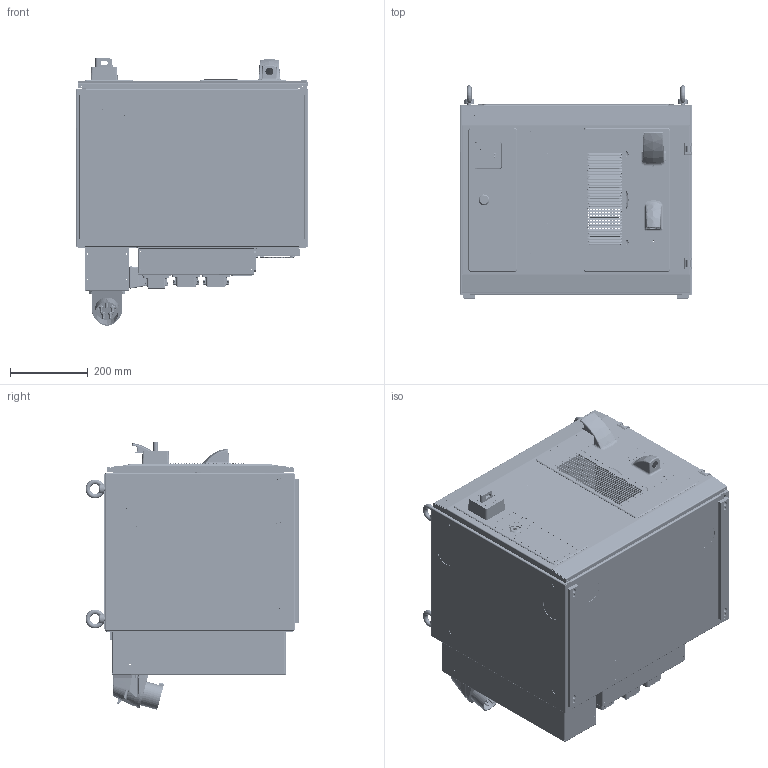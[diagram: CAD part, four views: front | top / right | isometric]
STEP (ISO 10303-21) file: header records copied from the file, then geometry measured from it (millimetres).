
FILE_DESCRIPTION (( 'STEP AP214' ), '1' );
FILE_NAME ('Rev_2_from_2019-06.STEP', '2020-07-20T13:01:17', ( '' ), ( '' ), 'SwSTEP 2.0', 'SolidWorks 2019', '' );
FILE_SCHEMA (( 'AUTOMOTIVE_DESIGN' ));
Length unit declared in the file: millimetre
Products named in the file (1): Rev_2_from_2019-06
Bounding box: 598 x 549.05 x 689.3 mm (x, y, z)
Volume: 4514409.6 mm3; surface area: 4930744 mm2
Topology: 87 solids, 94 shells, 18910 faces, 49921 edges, 31450 vertices
Faces by surface type: plane 9758, bspline 3870, cylinder 3236, cone 1386, torus 563, sphere 97
Entity records: 893012 total; most frequent: CARTESIAN_POINT 247848, ORIENTED_EDGE 99438, DIRECTION 79019, EDGE_CURVE 49719, VERTEX_POINT 31436, LINE 30559, VECTOR 30559, AXIS2_PLACEMENT_3D 24230
